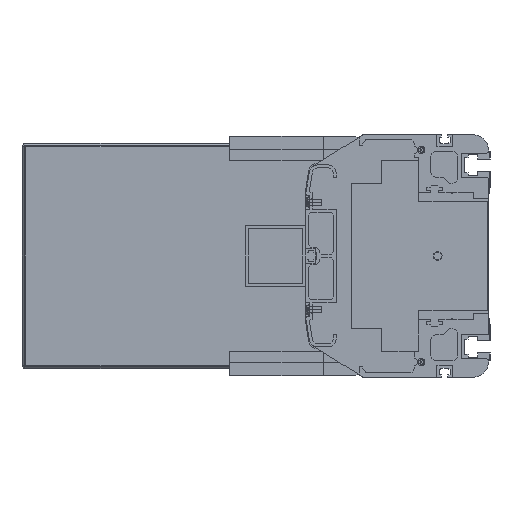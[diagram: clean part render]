
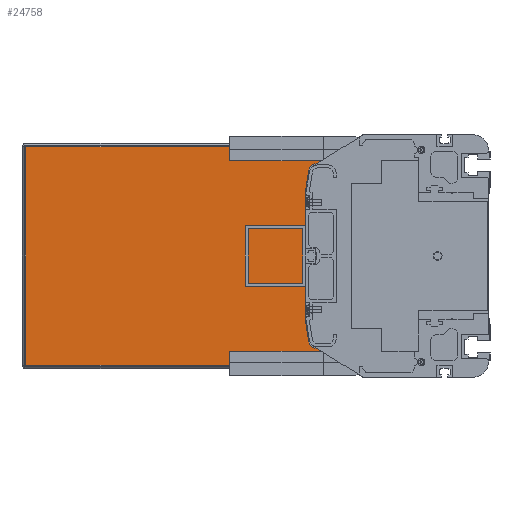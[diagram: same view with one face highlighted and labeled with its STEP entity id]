
A CAD part, left-side view. The second image highlights one B-rep face of the part: STEP entity #24758.
In plain terms, the highlighted planar face has unit normal (-1, 0, 0).
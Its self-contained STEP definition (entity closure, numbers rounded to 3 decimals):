
#1604=DIRECTION('',(0.,1.,0.));
#1605=VECTOR('',#1604,220.5);
#1606=CARTESIAN_POINT('',(4286.5,86.,72.));
#1607=LINE('',#1606,#1605);
#1655=DIRECTION('',(0.,-1.,0.));
#1656=VECTOR('',#1655,220.5);
#1657=CARTESIAN_POINT('',(4286.5,306.5,-72.));
#1658=LINE('',#1657,#1656);
#1714=DIRECTION('',(0.,0.,-1.));
#1715=VECTOR('',#1714,144.);
#1716=CARTESIAN_POINT('',(4286.5,306.5,72.));
#1717=LINE('',#1716,#1715);
#1748=CARTESIAN_POINT('',(4286.5,114.728,56.));
#1749=DIRECTION('',(-1.,0.,0.));
#1750=DIRECTION('',(0.,0.,1.));
#1751=AXIS2_PLACEMENT_3D('',#1748,#1749,#1750);
#1753=DIRECTION('',(0.,0.156,-0.988));
#1754=VECTOR('',#1753,14.963);
#1755=CARTESIAN_POINT('',(4286.5,119.666,56.78));
#1756=LINE('',#1755,#1754);
#1757=DIRECTION('',(0.,-0.156,-0.988));
#1758=VECTOR('',#1757,14.963);
#1759=CARTESIAN_POINT('',(4286.5,122.,-42.));
#1760=LINE('',#1759,#1758);
#1761=CARTESIAN_POINT('',(4286.5,114.728,-56.));
#1762=DIRECTION('',(-1.,0.,0.));
#1763=DIRECTION('',(0.,0.988,-0.156));
#1764=AXIS2_PLACEMENT_3D('',#1761,#1762,#1763);
#1771=DIRECTION('',(0.,0.,-1.));
#1772=VECTOR('',#1771,11.);
#1773=CARTESIAN_POINT('',(4286.5,86.,-61.));
#1774=LINE('',#1773,#1772);
#1780=DIRECTION('',(0.,0.,-1.));
#1781=VECTOR('',#1780,11.);
#1782=CARTESIAN_POINT('',(4286.5,86.,72.));
#1783=LINE('',#1782,#1781);
#3210=DIRECTION('',(0.,1.,0.));
#3211=VECTOR('',#3210,28.728);
#3212=CARTESIAN_POINT('',(4286.5,86.,-61.));
#3213=LINE('',#3212,#3211);
#3230=DIRECTION('',(0.,0.,1.));
#3231=VECTOR('',#3230,84.);
#3232=CARTESIAN_POINT('',(4286.5,122.,-42.));
#3233=LINE('',#3232,#3231);
#3254=DIRECTION('',(0.,-1.,0.));
#3255=VECTOR('',#3254,28.728);
#3256=CARTESIAN_POINT('',(4286.5,114.728,61.));
#3257=LINE('',#3256,#3255);
#19140=CARTESIAN_POINT('',(4286.5,306.5,-72.));
#19141=CARTESIAN_POINT('',(4286.5,86.,-72.));
#19142=VERTEX_POINT('',#19140);
#19143=VERTEX_POINT('',#19141);
#19144=CARTESIAN_POINT('',(4286.5,86.,-61.));
#19145=VERTEX_POINT('',#19144);
#19146=CARTESIAN_POINT('',(4286.5,114.728,-61.));
#19147=VERTEX_POINT('',#19146);
#19148=CARTESIAN_POINT('',(4286.5,119.666,-56.78));
#19149=VERTEX_POINT('',#19148);
#19150=CARTESIAN_POINT('',(4286.5,122.,-42.));
#19151=VERTEX_POINT('',#19150);
#19152=CARTESIAN_POINT('',(4286.5,122.,42.));
#19153=VERTEX_POINT('',#19152);
#19154=CARTESIAN_POINT('',(4286.5,119.666,56.78));
#19155=VERTEX_POINT('',#19154);
#19156=CARTESIAN_POINT('',(4286.5,114.728,61.));
#19157=VERTEX_POINT('',#19156);
#19158=CARTESIAN_POINT('',(4286.5,86.,61.));
#19159=VERTEX_POINT('',#19158);
#19160=CARTESIAN_POINT('',(4286.5,86.,72.));
#19161=VERTEX_POINT('',#19160);
#19162=CARTESIAN_POINT('',(4286.5,306.5,72.));
#19163=VERTEX_POINT('',#19162);
#24730=CARTESIAN_POINT('',(4286.5,196.25,0.));
#24731=DIRECTION('',(1.,0.,0.));
#24732=DIRECTION('',(0.,0.,-1.));
#24733=AXIS2_PLACEMENT_3D('',#24730,#24731,#24732);
#24734=PLANE('',#24733);
#24735=ORIENTED_EDGE('',*,*,#24603,.F.);
#24736=ORIENTED_EDGE('',*,*,#24699,.F.);
#24737=ORIENTED_EDGE('',*,*,#24554,.F.);
#24739=ORIENTED_EDGE('',*,*,#24738,.T.);
#24741=ORIENTED_EDGE('',*,*,#24740,.F.);
#24743=ORIENTED_EDGE('',*,*,#24742,.T.);
#24745=ORIENTED_EDGE('',*,*,#24744,.T.);
#24747=ORIENTED_EDGE('',*,*,#24746,.F.);
#24749=ORIENTED_EDGE('',*,*,#24748,.T.);
#24751=ORIENTED_EDGE('',*,*,#24750,.T.);
#24753=ORIENTED_EDGE('',*,*,#24752,.F.);
#24755=ORIENTED_EDGE('',*,*,#24754,.T.);
#24756=EDGE_LOOP('',(#24735,#24736,#24737,#24739,#24741,#24743,#24745,#24747,
#24749,#24751,#24753,#24755));
#24757=FACE_OUTER_BOUND('',#24756,.F.);
#24758=ADVANCED_FACE('',(#24757),#24734,.F.);
#1752=CIRCLE('',#1751,5.);
#1765=CIRCLE('',#1764,5.);
#24554=EDGE_CURVE('',#19161,#19163,#1607,.T.);
#24603=EDGE_CURVE('',#19142,#19143,#1658,.T.);
#24699=EDGE_CURVE('',#19163,#19142,#1717,.T.);
#24738=EDGE_CURVE('',#19161,#19159,#1783,.T.);
#24740=EDGE_CURVE('',#19157,#19159,#3257,.T.);
#24742=EDGE_CURVE('',#19157,#19155,#1752,.T.);
#24744=EDGE_CURVE('',#19155,#19153,#1756,.T.);
#24746=EDGE_CURVE('',#19151,#19153,#3233,.T.);
#24748=EDGE_CURVE('',#19151,#19149,#1760,.T.);
#24750=EDGE_CURVE('',#19149,#19147,#1765,.T.);
#24752=EDGE_CURVE('',#19145,#19147,#3213,.T.);
#24754=EDGE_CURVE('',#19145,#19143,#1774,.T.);
